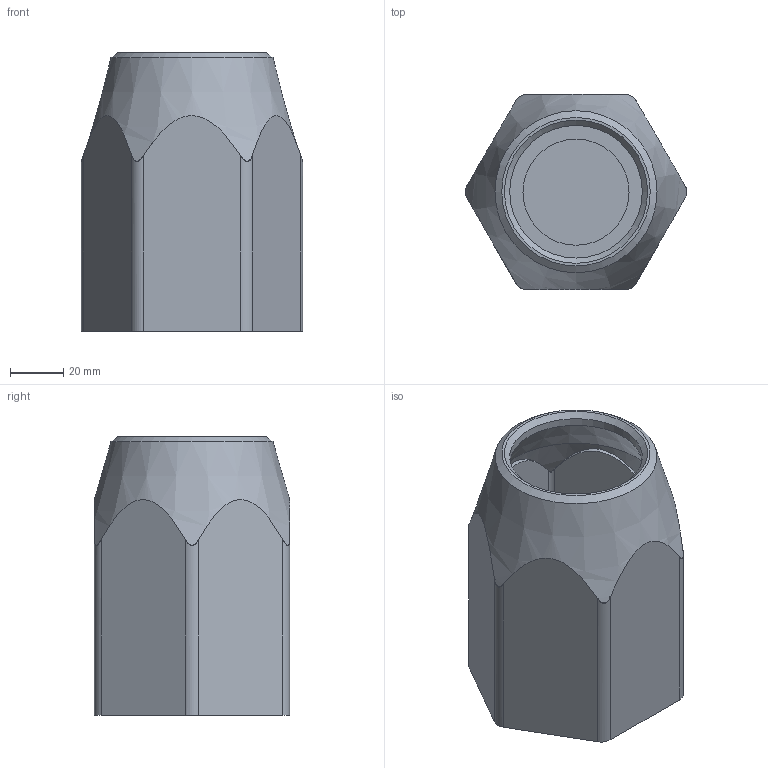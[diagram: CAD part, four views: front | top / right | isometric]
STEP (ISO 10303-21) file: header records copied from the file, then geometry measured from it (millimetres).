
FILE_DESCRIPTION(/* description */ (''),/* implementation_level */ '2;1');
FILE_NAME(/* name */ 'C:/Users/Wilko/Downloads/tmpExports/Pencil Shaped Pen Holder 01/step/Pencil-Shaped-Pen-Holder-01.step',/* time_stamp */ '2022-06-27T15:55:46+02:00',/* author */ (''),/* organization */ (''),/* preprocessor_version */ 'ST-DEVELOPER v19',/* originating_system */ 'Autodesk Translation Framework v11.7.0.108',/* authorisation */ '');
FILE_SCHEMA (('AUTOMOTIVE_DESIGN { 1 0 10303 214 3 1 1 }'));
Length unit declared in the file: millimetre
Products named in the file (3): Pencil Shaped Pen Holder 01; Wood; Color
Assembly tree (2 placements, depth 2):
  Pencil Shaped Pen Holder 01
    Wood
    Color
Bounding box: 83.45 x 73.61 x 105 mm (x, y, z)
Volume: 130592.1 mm3; surface area: 94404.6 mm2
Topology: 3 solids, 3 shells, 105 faces, 304 edges, 206 vertices
Faces by surface type: bspline 36, cylinder 33, plane 31, cone 5
Full cylindrical faces by diameter (mm): 40 x2, 50 x1
Entity records: 6156 total; most frequent: CARTESIAN_POINT 3714, ORIENTED_EDGE 608, EDGE_CURVE 304, DIRECTION 302, VERTEX_POINT 206, B_SPLINE_CURVE_WITH_KNOTS 163, AXIS2_PLACEMENT_3D 111, EDGE_LOOP 110
